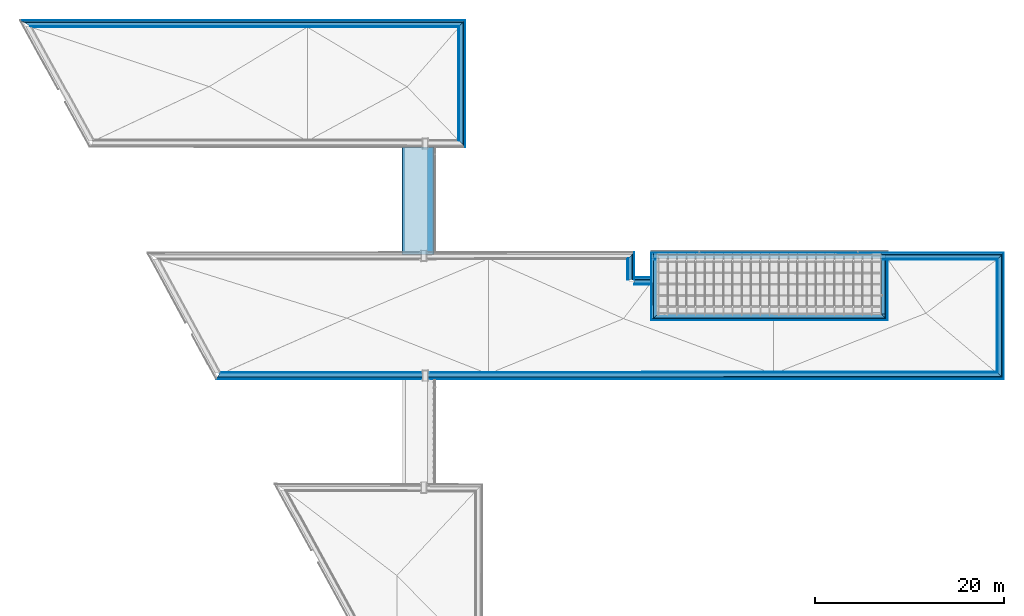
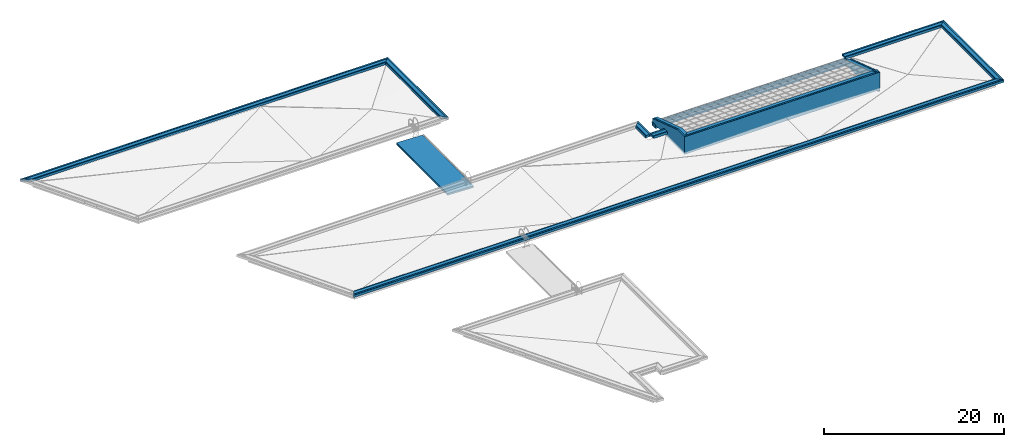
# One storey, part 17 of 47: 43 building element parts, 12 elements without a shape of their own.
"""IFC2X3 building model written with IfcOpenShell, lengths in millimetres."""

from ifc_helpers import new_model, entity, si_unit, converted_unit, derived_unit, money_unit, direction, frame, origin_with_axes, place, context, subcontext, project, spatial, polyline, outline, extrude, clip, bounded_halfspace, material, type_object, element, aggregate, save


model = new_model("IFC2X3")

# Units and contexts
model_context = context("Model", 3, precision=1e-05, world=origin_with_axes(), true_north=direction((0.0, 1.0)))
body_context = subcontext(model_context, "Body", "Model", "MODEL_VIEW")
ifc_project = project(units=[si_unit("LENGTHUNIT", "METRE", prefix="MILLI"), si_unit("AREAUNIT", "SQUARE_METRE"), si_unit("VOLUMEUNIT", "CUBIC_METRE"), converted_unit("PLANEANGLEUNIT", "DEGREE", entity("IfcPlaneAngleMeasure", 0.0174532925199), si_unit("PLANEANGLEUNIT", "RADIAN"), dimensions=[0, 0, 0, 0, 0, 0, 0]), si_unit("SOLIDANGLEUNIT", "STERADIAN"), money_unit("EUR"), converted_unit("TIMEUNIT", "Year", entity("IfcTimeMeasure", 31556926.0), si_unit("TIMEUNIT", "SECOND"), dimensions=[0, 0, 1, 0, 0, 0, 0]), si_unit("MASSUNIT", "GRAM", prefix="KILO"), si_unit("THERMODYNAMICTEMPERATUREUNIT", "DEGREE_CELSIUS"), si_unit("LUMINOUSINTENSITYUNIT", "LUMEN"), si_unit("ENERGYUNIT", "JOULE", prefix="MEGA"), derived_unit("THERMALCONDUCTANCEUNIT", [(si_unit("POWERUNIT", "WATT"), 1), (si_unit("LENGTHUNIT", "METRE"), -1), (si_unit("THERMODYNAMICTEMPERATUREUNIT", "KELVIN"), -1)]), derived_unit("SPECIFICHEATCAPACITYUNIT", [(si_unit("ENERGYUNIT", "JOULE"), 1), (si_unit("MASSUNIT", "GRAM", prefix="KILO"), -1), (si_unit("THERMODYNAMICTEMPERATUREUNIT", "KELVIN"), -1)]), derived_unit("MASSDENSITYUNIT", [(si_unit("MASSUNIT", "GRAM", prefix="KILO"), 1), (si_unit("VOLUMEUNIT", "CUBIC_METRE"), -1)])], contexts=[model_context])

# Site, building, storey
site_placement = place(None, origin_with_axes())
site = spatial("IfcSite", under=ifc_project, at=site_placement, Name="Site", CompositionType="ELEMENT")
building_placement = place(site_placement, origin_with_axes())
building = spatial("IfcBuilding", under=site, at=building_placement, Name="Building", CompositionType="ELEMENT")
storey_placement = place(building_placement, frame((0.0, 0.0, 6000.0), z_axis=(0.0, 0.0, 1.0), x_axis=(1.0, 0.0, 0.0)))
storey = spatial("IfcBuildingStorey", under=building, at=storey_placement, Name="KATUSEPLAAN", CompositionType="ELEMENT", Elevation=6000.0)

# Roof, building element parts
roof_placement = place(storey_placement, frame((40498.5392321, 58669.3659509, -163.472940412), z_axis=(0.0, 0.0, 1.0), x_axis=(-8.52438173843e-05, -0.999999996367, 0.0)))
roof = element("IfcRoof", 1, at=roof_placement, inside=storey, Name="K2", ShapeType="NOTDEFINED")
ifc_material_1 = material(Name="Soojustus - Plastik Kõva")
building_element_part_1_placement = place(roof_placement, origin_with_axes())
building_element_part_1 = element("IfcBuildingElementPart", 2, at=building_element_part_1_placement, material=ifc_material_1, Name="Soojustus - Plastik Kõva", context=body_context, shape_type="SweptSolid", body=[
    extrude(outline(polyline([(-19.660243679, -10.4779077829), (-19.375170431, -3356.7265968), (11353.4186797, -3355.75654551), (11353.1336065, -9.50785648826), (-19.660243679, -10.4779077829)])), frame((0.0, 0.0, 0.0), z_axis=(0.0, 0.0348994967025, 0.999390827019), x_axis=(1.0, 0.0, 0.0)), (0.0, 0.0, 1.0), 220.0),
])
ifc_material_2 = material(Name="Soojustus - Mineraal Pehme")
building_element_part_2_placement = place(roof_placement, origin_with_axes())
building_element_part_2 = element("IfcBuildingElementPart", 3, at=building_element_part_2_placement, material=ifc_material_2, Name="Soojustus - Mineraal Pehme", context=body_context, shape_type="SweptSolid", body=[
    extrude(outline(polyline([(-19.660243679, -10.4779077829), (-19.375170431, -3356.7265968), (11353.4186797, -3355.75654551), (11353.1336065, -9.50785648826), (-19.660243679, -10.4779077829)])), frame((0.0, 7.67788927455, 219.865981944), z_axis=(0.0, 0.0348994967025, 0.999390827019), x_axis=(1.0, 0.0, 0.0)), (0.0, 0.0, 1.0), 30.0),
])
aggregate(roof, [building_element_part_1, building_element_part_2])

# Wall, building element parts
wall_type_1 = type_object("IfcWallType", Name="VS-4 parapett", PredefinedType="NOTDEFINED")
wall_1_placement = place(storey_placement, frame((88301.5550696, 47301.6954589, 100.0), z_axis=(0.0, 0.0, 1.0), x_axis=(-0.999999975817, 0.000219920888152, 0.0)))
wall_1 = element("IfcWall", 4, at=wall_1_placement, inside=storey, type_object=wall_type_1, Name="VS4 parapett")
building_element_part_3_placement = place(wall_1_placement, origin_with_axes())
building_element_part_3 = element("IfcBuildingElementPart", 5, at=building_element_part_3_placement, material=ifc_material_1, Name="Soojustus - Plastik Kõva", context=body_context, shape_type="SweptSolid", body=[
    extrude(outline(polyline([(0.0, 429.999999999), (24798.9185853, 429.999999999), (24798.9185853, 530.0), (-1.13686837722e-10, 530.0), (0.0, 429.999999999)])), origin_with_axes(), (0.0, 0.0, 1.0), 500.0),
])
ifc_material_3 = material(Name="Kivi - Ol.Olev Konstruktsioon")
building_element_part_4_placement = place(wall_1_placement, origin_with_axes())
building_element_part_4 = element("IfcBuildingElementPart", 6, at=building_element_part_4_placement, material=ifc_material_3, Name="Kivi - Ol.Olev Konstruktsioon", context=body_context, shape_type="SweptSolid", body=[
    extrude(outline(polyline([(0.0, 0.0), (24798.9185853, 0.0), (24798.9185853, 429.999999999), (0.0, 429.999999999), (0.0, 0.0)])), origin_with_axes(), (0.0, 0.0, 1.0), 500.0),
])
building_element_part_5_placement = place(wall_1_placement, origin_with_axes())
building_element_part_5 = element("IfcBuildingElementPart", 7, at=building_element_part_5_placement, material=ifc_material_1, Name="Soojustus - Plastik Kõva", context=body_context, shape_type="SweptSolid", body=[
    extrude(outline(polyline([(0.0, -200.0), (24798.9185853, -200.0), (24798.9185853, 0.0), (0.0, 0.0), (0.0, -200.0)])), origin_with_axes(), (0.0, 0.0, 1.0), 500.0),
])
ifc_material_4 = material(Name="Tellis - Viimistlus")
building_element_part_6_placement = place(wall_1_placement, origin_with_axes())
building_element_part_6 = element("IfcBuildingElementPart", 8, at=building_element_part_6_placement, material=ifc_material_4, Name="Tellis - Viimistlus", context=body_context, shape_type="SweptSolid", body=[
    extrude(outline(polyline([(0.0, -219.999999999), (24798.9185853, -219.999999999), (24798.9185853, -200.0), (0.0, -200.0), (0.0, -219.999999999)])), origin_with_axes(), (0.0, 0.0, 1.0), 500.0),
])
aggregate(wall_1, [building_element_part_3, building_element_part_4, building_element_part_5, building_element_part_6])

wall_2_placement = place(storey_placement, frame((87829.1670684, 47302.325893, 980.0), z_axis=(0.0, 0.0, 1.0), x_axis=(1.0, 0.0, 0.0)))
wall_2 = element("IfcWall", 9, at=wall_2_placement, inside=storey, type_object=wall_type_1, Name="VS4 parapett")
building_element_part_7_placement = place(wall_2_placement, origin_with_axes())
building_element_part_7 = element("IfcBuildingElementPart", 10, at=building_element_part_7_placement, material=ifc_material_1, Name="Soojustus - Plastik Kõva", context=body_context, shape_type="SweptSolid", body=[
    extrude(outline(polyline([(0.0, -530.0), (12266.3174991, -530.0), (12366.3021026, -429.999999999), (0.0, -429.999999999), (0.0, -530.0)])), origin_with_axes(), (0.0, 0.0, 1.0), 320.0),
])
building_element_part_8_placement = place(wall_2_placement, origin_with_axes())
building_element_part_8 = element("IfcBuildingElementPart", 11, at=building_element_part_8_placement, material=ifc_material_3, Name="Kivi - Ol.Olev Konstruktsioon", context=body_context, shape_type="SweptSolid", body=[
    extrude(outline(polyline([(0.0, -429.999999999), (12366.3021026, -429.999999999), (12796.2358981, 0.0), (0.0, 0.0), (0.0, -429.999999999)])), origin_with_axes(), (0.0, 0.0, 1.0), 320.0),
])
building_element_part_9_placement = place(wall_2_placement, origin_with_axes())
building_element_part_9 = element("IfcBuildingElementPart", 12, at=building_element_part_9_placement, material=ifc_material_1, Name="Soojustus - Plastik Kõva", context=body_context, shape_type="SweptSolid", body=[
    extrude(outline(polyline([(0.0, 0.0), (12796.2358981, 0.0), (12996.2051053, 200.0), (0.0, 200.0), (0.0, 0.0)])), origin_with_axes(), (0.0, 0.0, 1.0), 320.0),
])
building_element_part_10_placement = place(wall_2_placement, origin_with_axes())
building_element_part_10 = element("IfcBuildingElementPart", 13, at=building_element_part_10_placement, material=ifc_material_4, Name="Tellis - Viimistlus", context=body_context, shape_type="SweptSolid", body=[
    extrude(outline(polyline([(0.0, 200.0), (12996.2051053, 200.0), (13016.202026, 220.0), (0.0, 220.0), (0.0, 200.0)])), origin_with_axes(), (0.0, 0.0, 1.0), 320.0),
])
aggregate(wall_2, [building_element_part_7, building_element_part_8, building_element_part_9, building_element_part_10])

wall_type_2 = type_object("IfcWallType", Name="VS-4", PredefinedType="NOTDEFINED")
wall_3_placement = place(storey_placement, frame((63723.4882863, 47509.8106832, 515.0), z_axis=(0.0, 0.0, 1.0), x_axis=(0.0, -1.0, 0.0)))
wall_3 = element("IfcWall", 14, at=wall_3_placement, inside=storey, type_object=wall_type_2, Name="VS4")
ifc_material_5 = material(Name="Tellis - Konstuktsioon")
building_element_part_11_placement = place(wall_3_placement, origin_with_axes())
building_element_part_11 = element("IfcBuildingElementPart", 15, at=building_element_part_11_placement, material=ifc_material_5, Name="Tellis - Konstuktsioon", context=body_context, shape_type="Clipping", body=[
    clip(extrude(outline(polyline([(0.0, 0.0), (6936.97978007, 0.0), (6506.97978006, 430.0), (0.0, 430.0), (0.0, 0.0)])), origin_with_axes(), (0.0, 0.0, 1.0), 2372.0), bounded_halfspace(frame((-160.418987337, 0.156787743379, 487.917354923), z_axis=(0.312334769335, -0.000305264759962, -0.949972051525), x_axis=(0.0, 0.99999994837, -0.000321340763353)), True, origin_with_axes(), polyline([(-18.0056573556, -230.0), (6506.74575508, -230.0), (6506.74575508, 440.0), (-18.0056573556, 440.0), (-18.0056573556, -230.0)]))),
])
building_element_part_12_placement = place(wall_3_placement, origin_with_axes())
building_element_part_12 = element("IfcBuildingElementPart", 16, at=building_element_part_12_placement, material=ifc_material_1, Name="Soojustus - Plastik Kõva", context=body_context, shape_type="Clipping", body=[
    clip(extrude(outline(polyline([(0.0, -200.0), (7136.97978007, -200.0), (6936.97978007, 0.0), (0.0, 0.0), (0.0, -200.0)])), origin_with_axes(), (0.0, 0.0, 1.0), 2372.0), bounded_halfspace(frame((-160.418987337, 0.156787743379, 487.917354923), z_axis=(0.312334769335, -0.000305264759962, -0.949972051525), x_axis=(0.0, 0.99999994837, -0.000321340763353)), True, origin_with_axes(), polyline([(-18.0056573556, -230.0), (6506.74575508, -230.0), (6506.74575508, 440.0), (-18.0056573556, 440.0), (-18.0056573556, -230.0)]))),
])
building_element_part_13_placement = place(wall_3_placement, origin_with_axes())
building_element_part_13 = element("IfcBuildingElementPart", 17, at=building_element_part_13_placement, material=ifc_material_4, Name="Tellis - Viimistlus", context=body_context, shape_type="Clipping", body=[
    clip(extrude(outline(polyline([(0.0, -220.0), (7156.97978007, -220.0), (7136.97978007, -200.0), (0.0, -200.0), (0.0, -220.0)])), origin_with_axes(), (0.0, 0.0, 1.0), 2372.0), bounded_halfspace(frame((-160.418987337, 0.156787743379, 487.917354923), z_axis=(0.312334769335, -0.000305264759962, -0.949972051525), x_axis=(0.0, 0.99999994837, -0.000321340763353)), True, origin_with_axes(), polyline([(-18.0056573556, -230.0), (6506.74575508, -230.0), (6506.74575508, 440.0), (-18.0056573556, 440.0), (-18.0056573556, -230.0)]))),
])
aggregate(wall_3, [building_element_part_11, building_element_part_12, building_element_part_13])

wall_4_placement = place(storey_placement, frame((63723.4882863, 40572.8309031, 495.625369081), z_axis=(0.0, 0.0, 1.0), x_axis=(1.0, 0.0, 0.0)))
wall_4 = element("IfcWall", 18, at=wall_4_placement, inside=storey, type_object=wall_type_2, Name="VS4")
building_element_part_14_placement = place(wall_4_placement, origin_with_axes())
building_element_part_14 = element("IfcBuildingElementPart", 19, at=building_element_part_14_placement, material=ifc_material_5, Name="Tellis - Konstuktsioon", context=body_context, shape_type="SweptSolid", body=[
    extrude(outline(polyline([(0.0, 0.0), (24578.0667834, 0.0), (24148.0667834, 429.999999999), (430.000000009, 429.999999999), (0.0, 0.0)])), origin_with_axes(), (0.0, 0.0, 1.0), 2391.37463092),
])
building_element_part_15_placement = place(wall_4_placement, origin_with_axes())
building_element_part_15 = element("IfcBuildingElementPart", 20, at=building_element_part_15_placement, material=ifc_material_1, Name="Soojustus - Plastik Kõva", context=body_context, shape_type="SweptSolid", body=[
    extrude(outline(polyline([(-200.000000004, -200.0), (24778.0667834, -200.0), (24578.0667834, 0.0), (0.0, 0.0), (-200.000000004, -200.0)])), origin_with_axes(), (0.0, 0.0, 1.0), 2391.37463092),
])
building_element_part_16_placement = place(wall_4_placement, origin_with_axes())
building_element_part_16 = element("IfcBuildingElementPart", 21, at=building_element_part_16_placement, material=ifc_material_4, Name="Tellis - Viimistlus", context=body_context, shape_type="SweptSolid", body=[
    extrude(outline(polyline([(-220.000000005, -220.0), (24798.0667834, -220.0), (24778.0667834, -200.0), (-200.000000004, -200.0), (-220.000000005, -220.0)])), origin_with_axes(), (0.0, 0.0, 1.0), 2391.37463092),
])
aggregate(wall_4, [building_element_part_14, building_element_part_15, building_element_part_16])

wall_5_placement = place(storey_placement, frame((88301.5550696, 40572.8309036, 250.0), z_axis=(0.0, 0.0, 1.0), x_axis=(0.0, 1.0, 0.0)))
wall_5 = element("IfcWall", 22, at=wall_5_placement, inside=storey, type_object=wall_type_2, Name="VS4")
building_element_part_17_placement = place(wall_5_placement, origin_with_axes())
building_element_part_17 = element("IfcBuildingElementPart", 23, at=building_element_part_17_placement, material=ifc_material_5, Name="Tellis - Konstuktsioon", context=body_context, shape_type="Clipping", body=[
    clip(extrude(outline(polyline([(0.0, 0.0), (6199.21176741, 0.0), (6199.21176741, 430.0), (429.99999999, 430.0), (0.0, 0.0)])), origin_with_axes(), (0.0, 0.0, 1.0), 2637.0), bounded_halfspace(frame((790.307857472, -0.772418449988, 2403.73615239), z_axis=(-0.312334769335, 0.000305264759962, -0.949972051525), x_axis=(0.0, 0.99999994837, 0.000321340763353)), True, origin_with_axes(), polyline([(430.234024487, -230.0), (6954.98543693, -230.0), (6954.98543693, 440.0), (430.234024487, 440.0), (430.234024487, -230.0)]))),
])
building_element_part_18_placement = place(wall_5_placement, origin_with_axes())
building_element_part_18 = element("IfcBuildingElementPart", 24, at=building_element_part_18_placement, material=ifc_material_1, Name="Soojustus - Plastik Kõva", context=body_context, shape_type="Clipping", body=[
    clip(extrude(outline(polyline([(-199.999999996, -200.0), (6199.21176741, -200.0), (6199.21176741, 0.0), (0.0, 0.0), (-199.999999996, -200.0)])), origin_with_axes(), (0.0, 0.0, 1.0), 2637.0), bounded_halfspace(frame((790.307857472, -0.772418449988, 2403.73615239), z_axis=(-0.312334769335, 0.000305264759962, -0.949972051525), x_axis=(0.0, 0.99999994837, 0.000321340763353)), True, origin_with_axes(), polyline([(430.234024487, -230.0), (6954.98543693, -230.0), (6954.98543693, 440.0), (430.234024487, 440.0), (430.234024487, -230.0)]))),
])
building_element_part_19_placement = place(wall_5_placement, origin_with_axes())
building_element_part_19 = element("IfcBuildingElementPart", 25, at=building_element_part_19_placement, material=ifc_material_4, Name="Tellis - Viimistlus", context=body_context, shape_type="Clipping", body=[
    clip(extrude(outline(polyline([(-219.999999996, -220.0), (6199.21176741, -220.0), (6199.21176741, -200.0), (-199.999999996, -200.0), (-219.999999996, -220.0)])), origin_with_axes(), (0.0, 0.0, 1.0), 2637.0), bounded_halfspace(frame((790.307857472, -0.772418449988, 2403.73615239), z_axis=(-0.312334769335, 0.000305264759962, -0.949972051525), x_axis=(0.0, 0.99999994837, 0.000321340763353)), True, origin_with_axes(), polyline([(430.234024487, -230.0), (6954.98543693, -230.0), (6954.98543693, 440.0), (430.234024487, 440.0), (430.234024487, -230.0)]))),
])
aggregate(wall_5, [building_element_part_17, building_element_part_18, building_element_part_19])

wall_6_placement = place(storey_placement, frame((-2936.56698538, 71913.6627221, 980.0), z_axis=(0.0, 0.0, 1.0), x_axis=(0.999999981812, 0.000190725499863, 0.0)))
wall_6 = element("IfcWall", 26, at=wall_6_placement, inside=storey, type_object=wall_type_1, Name="VS4 parapett")
building_element_part_20_placement = place(wall_6_placement, origin_with_axes())
building_element_part_20 = element("IfcBuildingElementPart", 27, at=building_element_part_20_placement, material=ifc_material_1, Name="Soojustus - Plastik Kõva", context=body_context, shape_type="SweptSolid", body=[
    extrude(outline(polyline([(896.650157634, -530.0), (46028.1613397, -530.0), (46128.1613397, -429.999999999), (727.470882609, -429.999999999), (896.650157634, -530.0)])), origin_with_axes(), (0.0, 0.0, 1.0), 320.0),
])
building_element_part_21_placement = place(wall_6_placement, origin_with_axes())
building_element_part_21 = element("IfcBuildingElementPart", 28, at=building_element_part_21_placement, material=ifc_material_3, Name="Kivi - Ol.Olev Konstruktsioon", context=body_context, shape_type="SweptSolid", body=[
    extrude(outline(polyline([(727.470882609, -429.999999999), (46128.1613397, -429.999999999), (46558.1613397, 9.09494701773e-10), (1.13686837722e-10, 0.0), (727.470882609, -429.999999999)])), origin_with_axes(), (0.0, 0.0, 1.0), 320.0),
])
building_element_part_22_placement = place(wall_6_placement, origin_with_axes())
building_element_part_22 = element("IfcBuildingElementPart", 29, at=building_element_part_22_placement, material=ifc_material_1, Name="Soojustus - Plastik Kõva", context=body_context, shape_type="SweptSolid", body=[
    extrude(outline(polyline([(1.13686837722e-10, 0.0), (46558.1613397, 9.09494701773e-10), (46758.1613397, 200.000000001), (-338.35855005, 200.0), (1.13686837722e-10, 0.0)])), origin_with_axes(), (0.0, 0.0, 1.0), 320.0),
])
building_element_part_23_placement = place(wall_6_placement, origin_with_axes())
building_element_part_23 = element("IfcBuildingElementPart", 30, at=building_element_part_23_placement, material=ifc_material_4, Name="Tellis - Viimistlus", context=body_context, shape_type="SweptSolid", body=[
    extrude(outline(polyline([(-338.35855005, 200.0), (46758.1613397, 200.000000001), (46778.1613397, 219.999999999), (-372.194405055, 220.0), (-338.35855005, 200.0)])), origin_with_axes(), (0.0, 0.0, 1.0), 320.0),
])
aggregate(wall_6, [building_element_part_20, building_element_part_21, building_element_part_22, building_element_part_23])

wall_7_placement = place(storey_placement, frame((43621.5935075, 71922.5425507, 980.0), z_axis=(0.0, 0.0, 1.0), x_axis=(0.000190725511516, -0.999999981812, 0.0)))
wall_7 = element("IfcWall", 31, at=wall_7_placement, inside=storey, type_object=wall_type_1, Name="VS4 parapett")
building_element_part_24_placement = place(wall_7_placement, origin_with_axes())
building_element_part_24 = element("IfcBuildingElementPart", 32, at=building_element_part_24_placement, material=ifc_material_1, Name="Soojustus - Plastik Kõva", context=body_context, shape_type="SweptSolid", body=[
    extrude(outline(polyline([(529.999999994, -530.0), (12483.0656039, -530.0), (12583.1213673, -430.0), (429.999999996, -430.0), (529.999999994, -530.0)])), origin_with_axes(), (0.0, 0.0, 1.0), 320.0),
])
building_element_part_25_placement = place(wall_7_placement, origin_with_axes())
building_element_part_25 = element("IfcBuildingElementPart", 33, at=building_element_part_25_placement, material=ifc_material_3, Name="Kivi - Ol.Olev Konstruktsioon", context=body_context, shape_type="SweptSolid", body=[
    extrude(outline(polyline([(429.999999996, -430.0), (12583.1213673, -430.0), (13013.3611501, 1.13686837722e-10), (9.09494701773e-10, 0.0), (429.999999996, -430.0)])), origin_with_axes(), (0.0, 0.0, 1.0), 320.0),
])
building_element_part_26_placement = place(wall_7_placement, origin_with_axes())
building_element_part_26 = element("IfcBuildingElementPart", 34, at=building_element_part_26_placement, material=ifc_material_1, Name="Soojustus - Plastik Kõva", context=body_context, shape_type="SweptSolid", body=[
    extrude(outline(polyline([(9.09494701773e-10, 0.0), (13013.3611501, 1.13686837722e-10), (13213.4726769, 200.0), (-199.999999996, 200.0), (9.09494701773e-10, 0.0)])), origin_with_axes(), (0.0, 0.0, 1.0), 320.0),
])
building_element_part_27_placement = place(wall_7_placement, origin_with_axes())
building_element_part_27 = element("IfcBuildingElementPart", 35, at=building_element_part_27_placement, material=ifc_material_4, Name="Tellis - Viimistlus", context=body_context, shape_type="SweptSolid", body=[
    extrude(outline(polyline([(-199.999999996, 200.0), (13213.4726769, 200.0), (13233.4838296, 220.0), (-219.999999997, 220.0), (-199.999999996, 200.0)])), origin_with_axes(), (0.0, 0.0, 1.0), 320.0),
])
aggregate(wall_7, [building_element_part_24, building_element_part_25, building_element_part_26, building_element_part_27])

wall_8_placement = place(storey_placement, frame((61502.1698434, 47351.8235074, 980.0), z_axis=(0.0, 0.0, 1.0), x_axis=(0.0, -1.0, 0.0)))
wall_8 = element("IfcWall", 36, at=wall_8_placement, inside=storey, type_object=wall_type_1, Name="VS4 parapett")
building_element_part_28_placement = place(wall_8_placement, origin_with_axes())
building_element_part_28 = element("IfcBuildingElementPart", 37, at=building_element_part_28_placement, material=ifc_material_1, Name="Soojustus - Plastik Kõva", context=body_context, shape_type="SweptSolid", body=[
    extrude(outline(polyline([(530.774773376, -530.0), (2685.51503169, -530.0), (2685.51503169, -430.0), (430.62858972, -430.0), (530.774773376, -530.0)])), origin_with_axes(), (0.0, 0.0, 1.0), 320.0),
])
building_element_part_29_placement = place(wall_8_placement, origin_with_axes())
building_element_part_29 = element("IfcBuildingElementPart", 38, at=building_element_part_29_placement, material=ifc_material_3, Name="Kivi - Ol.Olev Konstruktsioon", context=body_context, shape_type="SweptSolid", body=[
    extrude(outline(polyline([(430.62858972, -430.0), (2685.51503169, -430.0), (2685.51503169, 0.0), (9.09494701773e-10, 0.0), (430.62858972, -430.0)])), origin_with_axes(), (0.0, 0.0, 1.0), 320.0),
])
building_element_part_30_placement = place(wall_8_placement, origin_with_axes())
building_element_part_30 = element("IfcBuildingElementPart", 39, at=building_element_part_30_placement, material=ifc_material_1, Name="Soojustus - Plastik Kõva", context=body_context, shape_type="SweptSolid", body=[
    extrude(outline(polyline([(9.09494701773e-10, 0.0), (2685.51503169, 0.0), (2685.51503169, 200.0), (-200.292367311, 200.0), (9.09494701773e-10, 0.0)])), origin_with_axes(), (0.0, 0.0, 1.0), 320.0),
])
building_element_part_31_placement = place(wall_8_placement, origin_with_axes())
building_element_part_31 = element("IfcBuildingElementPart", 40, at=building_element_part_31_placement, material=ifc_material_4, Name="Tellis - Viimistlus", context=body_context, shape_type="SweptSolid", body=[
    extrude(outline(polyline([(-200.292367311, 200.0), (2685.51503169, 200.0), (2685.51503169, 220.0), (-220.321604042, 220.0), (-200.292367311, 200.0)])), origin_with_axes(), (0.0, 0.0, 1.0), 320.0),
])
aggregate(wall_8, [building_element_part_28, building_element_part_29, building_element_part_30, building_element_part_31])

wall_9_placement = place(storey_placement, frame((61502.1698434, 44666.3084757, 980.0), z_axis=(0.0, 0.0, 1.0), x_axis=(1.0, 0.0, 0.0)))
wall_9 = element("IfcWall", 41, at=wall_9_placement, inside=storey, type_object=wall_type_1, Name="VS4 parapett")
building_element_part_32_placement = place(wall_9_placement, origin_with_axes())
building_element_part_32 = element("IfcBuildingElementPart", 42, at=building_element_part_32_placement, material=ifc_material_1, Name="Soojustus - Plastik Kõva", context=body_context, shape_type="SweptSolid", body=[
    extrude(outline(polyline([(220.0, -530.0), (2001.31844284, -530.0), (2001.31844284, -429.999999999), (220.0, -429.999999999), (220.0, -530.0)])), origin_with_axes(), (0.0, 0.0, 1.0), 320.0),
])
building_element_part_33_placement = place(wall_9_placement, origin_with_axes())
building_element_part_33 = element("IfcBuildingElementPart", 43, at=building_element_part_33_placement, material=ifc_material_3, Name="Kivi - Ol.Olev Konstruktsioon", context=body_context, shape_type="SweptSolid", body=[
    extrude(outline(polyline([(220.0, -429.999999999), (2001.31844284, -429.999999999), (2001.31844284, 0.0), (220.0, 0.0), (220.0, -429.999999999)])), origin_with_axes(), (0.0, 0.0, 1.0), 320.0),
])
building_element_part_34_placement = place(wall_9_placement, origin_with_axes())
building_element_part_34 = element("IfcBuildingElementPart", 44, at=building_element_part_34_placement, material=ifc_material_1, Name="Soojustus - Plastik Kõva", context=body_context, shape_type="SweptSolid", body=[
    extrude(outline(polyline([(220.0, 0.0), (2001.31844284, 0.0), (2001.31844284, 200.0), (220.0, 200.0), (220.0, 0.0)])), origin_with_axes(), (0.0, 0.0, 1.0), 320.0),
])
building_element_part_35_placement = place(wall_9_placement, origin_with_axes())
building_element_part_35 = element("IfcBuildingElementPart", 45, at=building_element_part_35_placement, material=ifc_material_4, Name="Tellis - Viimistlus", context=body_context, shape_type="SweptSolid", body=[
    extrude(outline(polyline([(220.0, 200.0), (2001.31844284, 200.0), (2001.31844284, 220.0), (220.0, 220.0), (220.0, 200.0)])), origin_with_axes(), (0.0, 0.0, 1.0), 320.0),
])
aggregate(wall_9, [building_element_part_32, building_element_part_33, building_element_part_34, building_element_part_35])

wall_10_placement = place(storey_placement, frame((100625.402966, 47302.325893, 980.0), z_axis=(0.0, 0.0, 1.0), x_axis=(0.000153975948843, -0.999999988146, 0.0)))
wall_10 = element("IfcWall", 46, at=wall_10_placement, inside=storey, type_object=wall_type_1, Name="VS4 parapett")
building_element_part_36_placement = place(wall_10_placement, origin_with_axes())
building_element_part_36 = element("IfcBuildingElementPart", 47, at=building_element_part_36_placement, material=ifc_material_1, Name="Soojustus - Plastik Kõva", context=body_context, shape_type="SweptSolid", body=[
    extrude(outline(polyline([(529.918399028, -530.0), (12415.5641095, -530.0), (12515.5709115, -430.0), (429.933795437, -430.0), (529.918399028, -530.0)])), origin_with_axes(), (0.0, 0.0, 1.0), 320.0),
])
building_element_part_37_placement = place(wall_10_placement, origin_with_axes())
building_element_part_37 = element("IfcBuildingElementPart", 48, at=building_element_part_37_placement, material=ifc_material_3, Name="Kivi - Ol.Olev Konstruktsioon", context=body_context, shape_type="SweptSolid", body=[
    extrude(outline(polyline([(429.933795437, -430.0), (12515.5709115, -430.0), (12945.6001599, 0.0), (0.0, 0.0), (429.933795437, -430.0)])), origin_with_axes(), (0.0, 0.0, 1.0), 320.0),
])
building_element_part_38_placement = place(wall_10_placement, origin_with_axes())
building_element_part_38 = element("IfcBuildingElementPart", 49, at=building_element_part_38_placement, material=ifc_material_1, Name="Soojustus - Plastik Kõva", context=body_context, shape_type="SweptSolid", body=[
    extrude(outline(polyline([(0.0, 0.0), (12945.6001599, 0.0), (13145.6137638, 200.0), (-199.96920718, 200.0), (0.0, 0.0)])), origin_with_axes(), (0.0, 0.0, 1.0), 320.0),
])
building_element_part_39_placement = place(wall_10_placement, origin_with_axes())
building_element_part_39 = element("IfcBuildingElementPart", 50, at=building_element_part_39_placement, material=ifc_material_4, Name="Tellis - Viimistlus", context=body_context, shape_type="SweptSolid", body=[
    extrude(outline(polyline([(-199.96920718, 200.0), (13145.6137638, 200.0), (13165.6151242, 220.0), (-219.966127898, 220.0), (-199.96920718, 200.0)])), origin_with_axes(), (0.0, 0.0, 1.0), 320.0),
])
aggregate(wall_10, [building_element_part_36, building_element_part_37, building_element_part_38, building_element_part_39])

wall_11_placement = place(storey_placement, frame((100627.396278, 34356.7258866, 980.0), z_axis=(0.0, 0.0, 1.0), x_axis=(-0.999999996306, -8.59587021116e-05, 0.0)))
wall_11 = element("IfcWall", 51, at=wall_11_placement, inside=storey, type_object=wall_type_1, Name="VS4 parapett")
building_element_part_40_placement = place(wall_11_placement, origin_with_axes())
building_element_part_40 = element("IfcBuildingElementPart", 52, at=building_element_part_40_placement, material=ifc_material_1, Name="Soojustus - Plastik Kõva", context=body_context, shape_type="SweptSolid", body=[
    extrude(outline(polyline([(530.036050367, -530.000000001), (82721.6800372, -530.0), (82781.1477031, -429.999999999), (430.029248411, -430.000000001), (530.036050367, -530.000000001)])), origin_with_axes(), (0.0, 0.0, 1.0), 320.0),
])
building_element_part_41_placement = place(wall_11_placement, origin_with_axes())
building_element_part_41 = element("IfcBuildingElementPart", 53, at=building_element_part_41_placement, material=ifc_material_3, Name="Kivi - Ol.Olev Konstruktsioon", context=body_context, shape_type="SweptSolid", body=[
    extrude(outline(polyline([(430.029248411, -430.000000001), (82781.1477031, -429.999999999), (83036.8586667, 0.0), (-1.13686837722e-10, 0.0), (430.029248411, -430.000000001)])), origin_with_axes(), (0.0, 0.0, 1.0), 320.0),
])
building_element_part_42_placement = place(wall_11_placement, origin_with_axes())
building_element_part_42 = element("IfcBuildingElementPart", 54, at=building_element_part_42_placement, material=ifc_material_1, Name="Soojustus - Plastik Kõva", context=body_context, shape_type="SweptSolid", body=[
    extrude(outline(polyline([(-1.13686837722e-10, 0.0), (83036.8586667, 0.0), (83155.7939985, 199.999999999), (-200.013603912, 199.999999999), (-1.13686837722e-10, 0.0)])), origin_with_axes(), (0.0, 0.0, 1.0), 320.0),
])
building_element_part_43_placement = place(wall_11_placement, origin_with_axes())
building_element_part_43 = element("IfcBuildingElementPart", 55, at=building_element_part_43_placement, material=ifc_material_4, Name="Tellis - Viimistlus", context=body_context, shape_type="SweptSolid", body=[
    extrude(outline(polyline([(-200.013603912, 199.999999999), (83155.7939985, 199.999999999), (83167.6875317, 219.999999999), (-220.014964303, 219.999999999), (-200.013603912, 199.999999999)])), origin_with_axes(), (0.0, 0.0, 1.0), 320.0),
])
aggregate(wall_11, [building_element_part_40, building_element_part_41, building_element_part_42, building_element_part_43])

save(model, "model.ifc")
